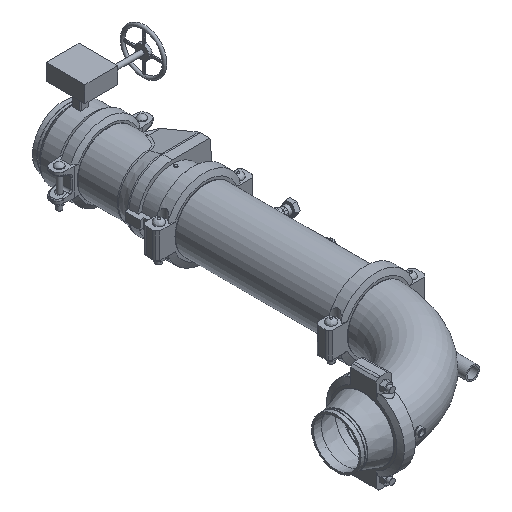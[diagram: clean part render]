
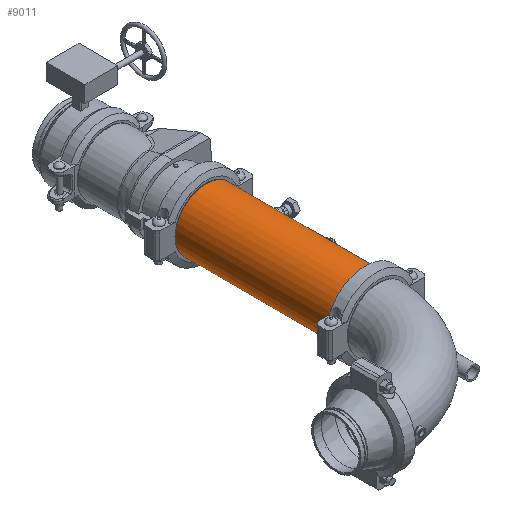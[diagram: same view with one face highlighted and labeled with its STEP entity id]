
A CAD part, isometric view. The second image highlights one B-rep face of the part: STEP entity #9011.
In plain terms, the highlighted cylindrical face has radius 136.525 mm (diameter 273.05 mm), a full revolution.
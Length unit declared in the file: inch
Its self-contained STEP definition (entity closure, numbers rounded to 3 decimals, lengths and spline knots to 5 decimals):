
#265=LINE('',#13607,#924);
#924=VECTOR('',#10836,5.375);
#1583=CYLINDRICAL_SURFACE('',#9757,5.375);
#1862=FACE_OUTER_BOUND('',#2373,.T.);
#2373=EDGE_LOOP('',(#5646,#5647,#5648,#5649,#5650,#5651));
#2987=CIRCLE('',#9755,5.375);
#2988=CIRCLE('',#9756,5.375);
#2989=CIRCLE('',#9758,5.375);
#2990=CIRCLE('',#9759,5.375);
#3483=VERTEX_POINT('',#13598);
#3484=VERTEX_POINT('',#13599);
#3485=VERTEX_POINT('',#13603);
#3486=VERTEX_POINT('',#13604);
#4354=EDGE_CURVE('',#3483,#3484,#2987,.T.);
#4355=EDGE_CURVE('',#3484,#3483,#2988,.T.);
#4356=EDGE_CURVE('',#3485,#3486,#2989,.T.);
#4357=EDGE_CURVE('',#3486,#3485,#2990,.T.);
#4358=EDGE_CURVE('',#3486,#3484,#265,.T.);
#5646=ORIENTED_EDGE('',*,*,#4356,.F.);
#5647=ORIENTED_EDGE('',*,*,#4357,.F.);
#5648=ORIENTED_EDGE('',*,*,#4358,.T.);
#5649=ORIENTED_EDGE('',*,*,#4355,.T.);
#5650=ORIENTED_EDGE('',*,*,#4354,.T.);
#5651=ORIENTED_EDGE('',*,*,#4358,.F.);
#9011=ADVANCED_FACE('',(#1862),#1583,.T.);
#9755=AXIS2_PLACEMENT_3D('',#13600,#10826,#10827);
#9756=AXIS2_PLACEMENT_3D('',#13601,#10828,#10829);
#9757=AXIS2_PLACEMENT_3D('',#13602,#10830,#10831);
#9758=AXIS2_PLACEMENT_3D('',#13605,#10832,#10833);
#9759=AXIS2_PLACEMENT_3D('',#13606,#10834,#10835);
#10826=DIRECTION('center_axis',(1.,0.,0.));
#10827=DIRECTION('ref_axis',(0.,0.,-1.));
#10828=DIRECTION('center_axis',(1.,0.,0.));
#10829=DIRECTION('ref_axis',(0.,0.,-1.));
#10830=DIRECTION('center_axis',(1.,0.,0.));
#10831=DIRECTION('ref_axis',(0.,1.,0.));
#10832=DIRECTION('center_axis',(1.,0.,0.));
#10833=DIRECTION('ref_axis',(0.,0.,-1.));
#10834=DIRECTION('center_axis',(1.,0.,0.));
#10835=DIRECTION('ref_axis',(0.,0.,-1.));
#10836=DIRECTION('',(-1.,0.,0.));
#13598=CARTESIAN_POINT('',(-13.7935,5.375,0.));
#13599=CARTESIAN_POINT('',(-13.7935,-5.375,0.));
#13600=CARTESIAN_POINT('Origin',(-13.7935,0.,0.));
#13601=CARTESIAN_POINT('Origin',(-13.7935,0.,0.));
#13602=CARTESIAN_POINT('Origin',(0.,0.,0.));
#13603=CARTESIAN_POINT('',(13.7935,5.375,0.));
#13604=CARTESIAN_POINT('',(13.7935,-5.375,0.));
#13605=CARTESIAN_POINT('Origin',(13.7935,0.,0.));
#13606=CARTESIAN_POINT('Origin',(13.7935,0.,0.));
#13607=CARTESIAN_POINT('',(0.,-5.375,0.));
